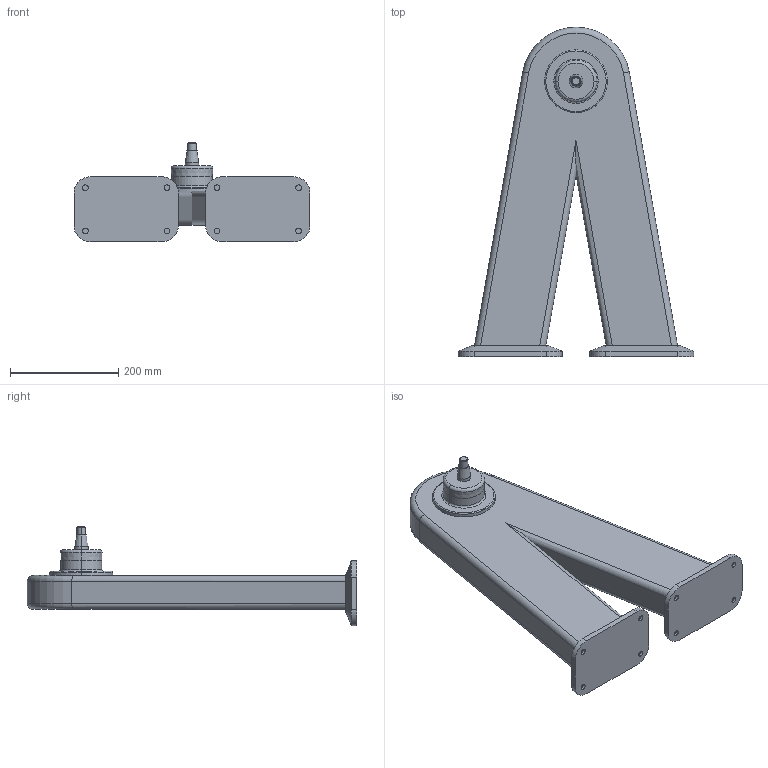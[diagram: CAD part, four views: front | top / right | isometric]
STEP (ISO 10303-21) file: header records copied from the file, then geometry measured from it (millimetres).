
FILE_DESCRIPTION (( 'STEP AP214' ), '1' );
FILE_NAME ('WP850_510.STEP', '2014-09-08T12:57:59', ( '' ), ( '' ), 'SwSTEP 2.0', 'SolidWorks 2014', '' );
FILE_SCHEMA (( 'AUTOMOTIVE_DESIGN' ));
Length unit declared in the file: millimetre
Products named in the file (1): WP850_510
Bounding box: 436.88 x 610 x 183.98 mm (x, y, z)
Volume: 9747349.8 mm3; surface area: 486188.9 mm2
Topology: 1 solids, 1 shells, 101 faces, 221 edges, 136 vertices
Faces by surface type: cylinder 41, plane 38, cone 14, torus 8
Entity records: 2795 total; most frequent: DIRECTION 513, CARTESIAN_POINT 489, ORIENTED_EDGE 442, EDGE_CURVE 221, AXIS2_PLACEMENT_3D 200, VERTEX_POINT 136, EDGE_LOOP 115, LINE 113
